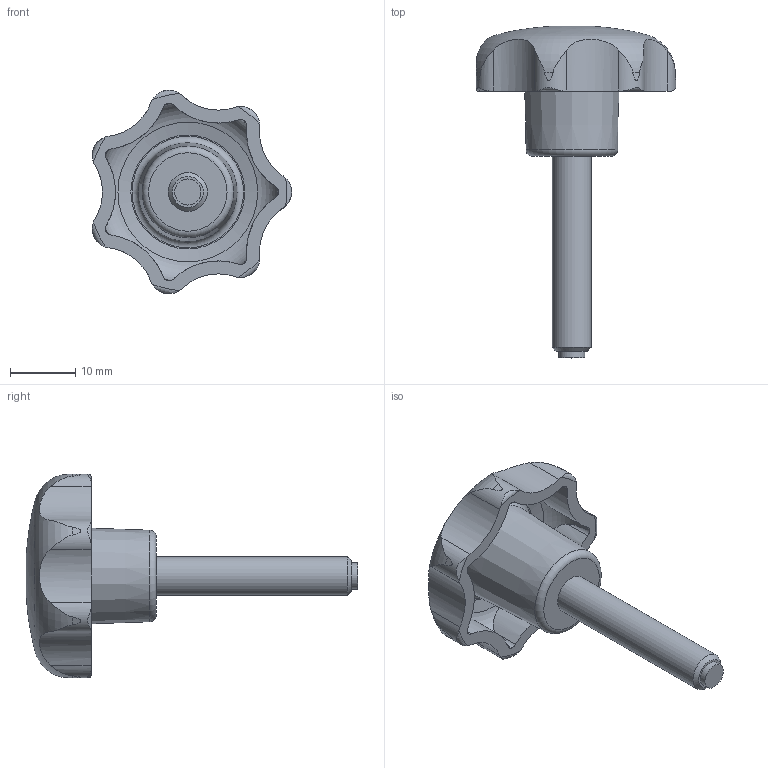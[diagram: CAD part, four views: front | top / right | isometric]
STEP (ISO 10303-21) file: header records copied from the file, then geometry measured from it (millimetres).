
FILE_DESCRIPTION( ( 'STEP AP203' ), '1' );
FILE_NAME( 'C:/Temp/Ganter_Step_05_03_2020/data/2_2/gn6336_10/Star knob GN 6336.10-32-M6-30-MS.stp', '2020-03-05T12:04:10', ( 'License CC BY-ND 4.0' ), ( 'CADENAS' ), ' ', 'PARTsolutions', ' ' );
FILE_SCHEMA( ( 'CONFIG_CONTROL_DESIGN' ) );
Length unit declared in the file: millimetre
Products named in the file (1): _Star knob GN 6336.10-32-M6-30-MS
Bounding box: 30.63 x 51.02 x 31.27 mm (x, y, z)
Volume: 6247.1 mm3; surface area: 3870.3 mm2
Topology: 1 solids, 1 shells, 65 faces, 189 edges, 128 vertices
Faces by surface type: cylinder 30, cone 17, torus 13, plane 4, bspline 1
Full cylindrical faces by diameter (mm): 4 x1, 6 x1
Entity records: 3035 total; most frequent: CARTESIAN_POINT 1421, ORIENTED_EDGE 348, DIRECTION 296, EDGE_CURVE 174, AXIS2_PLACEMENT_3D 134, VERTEX_POINT 125, EDGE_LOOP 78, B_SPLINE_CURVE_WITH_KNOTS 77
